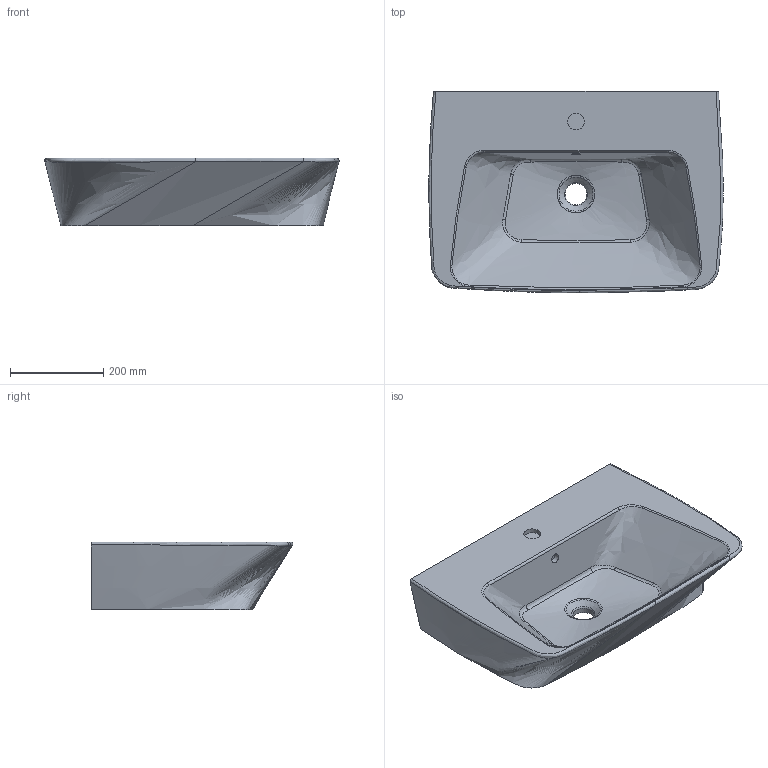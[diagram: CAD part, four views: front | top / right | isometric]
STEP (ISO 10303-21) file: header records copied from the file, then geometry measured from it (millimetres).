
FILE_DESCRIPTION (( 'STEP AP203' ), '1' );
FILE_NAME ('HERA LAV 63X43.STEP', '2018-09-18T08:31:54', ( '' ), ( '' ), 'SwSTEP 2.0', 'SolidWorks 2018', '' );
FILE_SCHEMA (( 'CONFIG_CONTROL_DESIGN' ));
Length unit declared in the file: millimetre
Products named in the file (1): HERA LAV 63X43
Bounding box: 629.65 x 431.45 x 145 mm (x, y, z)
Volume: 22186524.7 mm3; surface area: 808668.1 mm2
Topology: 1 solids, 1 shells, 36 faces, 111 edges, 80 vertices
Faces by surface type: bspline 24, plane 6, cylinder 3, torus 2, cone 1
Full cylindrical faces by diameter (mm): 20 x1, 36 x1, 46 x1
Entity records: 11722 total; most frequent: CARTESIAN_POINT 10900, ORIENTED_EDGE 196, EDGE_CURVE 98, DIRECTION 81, VERTEX_POINT 75, B_SPLINE_CURVE_WITH_KNOTS 68, EDGE_LOOP 49, FACE_OUTER_BOUND 43
